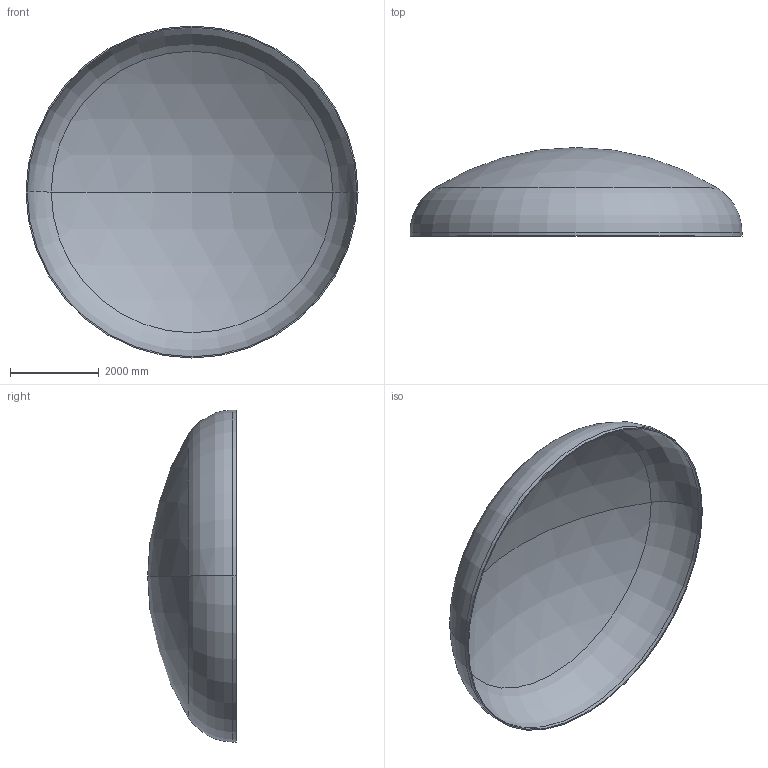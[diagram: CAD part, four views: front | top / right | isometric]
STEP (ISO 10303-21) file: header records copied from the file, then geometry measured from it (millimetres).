
FILE_DESCRIPTION (( 'STEP AP203' ), '1' );
FILE_NAME ('DIN 28013 Korbbogenform_-_Boden DIN 28013 - 7500 x 85 - I - s=27.step', '2016-07-04T10:52:39', ( '' ), ( '' ), 'SwSTEP 2.0', 'SolidWorks 2013', '' );
FILE_SCHEMA (( 'CONFIG_CONTROL_DESIGN' ));
Length unit declared in the file: millimetre
Products named in the file (1): DIN 28013 Korbbogenform_-_Boden DIN 28013 - 7500 x 85 - I - s=27
Bounding box: 7500 x 2003.55 x 7500 mm (x, y, z)
Volume: 1698175497.4 mm3; surface area: 126426135.9 mm2
Topology: 1 solids, 1 shells, 13 faces, 24 edges, 14 vertices
Faces by surface type: torus 4, cylinder 4, sphere 4, plane 1
Entity records: 407 total; most frequent: DIRECTION 72, CARTESIAN_POINT 52, ORIENTED_EDGE 48, AXIS2_PLACEMENT_3D 34, EDGE_CURVE 24, CIRCLE 20, EDGE_LOOP 14, VERTEX_POINT 14
